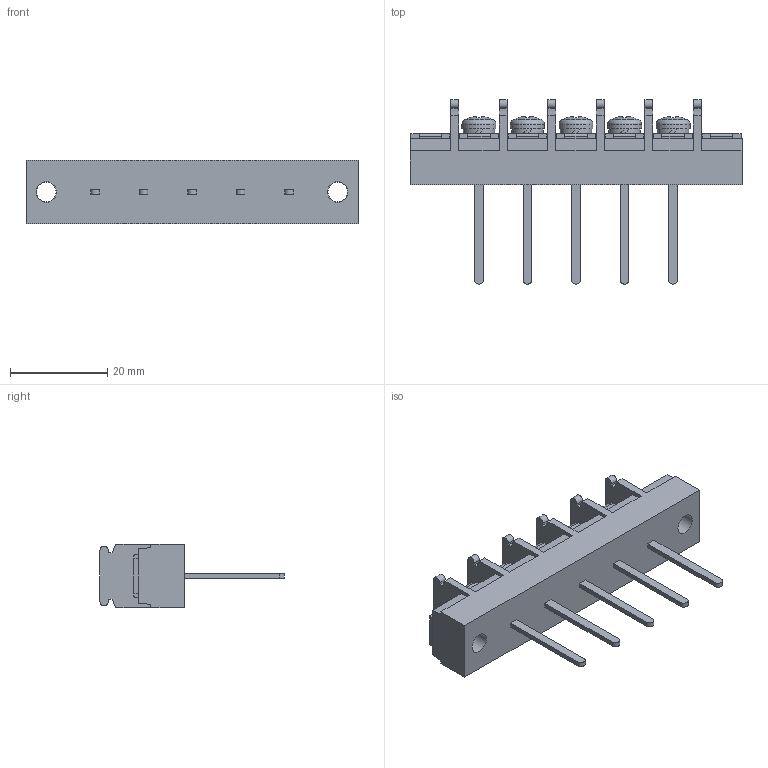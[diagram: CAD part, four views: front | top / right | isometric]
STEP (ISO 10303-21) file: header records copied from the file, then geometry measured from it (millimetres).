
FILE_DESCRIPTION(/* description */ ('Alibre Inc.'),/* implementation_level */ '2;1');
FILE_NAME(/* name */ 'export0',/* time_stamp */ '2015-10-17T19:31:31+09:00',/* author */ (''),/* organization */ (''),/* preprocessor_version */ 'ST-DEVELOPER v14',/* originating_system */ 'Alibre',/* authorisation */ '');
FILE_SCHEMA (('CONFIG_CONTROL_DESIGN'));
Length unit declared in the file: centimetre
Products named in the file (1): ID_1
Bounding box: 68.4 x 38 x 13 mm (x, y, z)
Volume: 10002.5 mm3; surface area: 6307.9 mm2
Topology: 1 solids, 17 shells, 755 faces, 2033 edges, 1351 vertices
Faces by surface type: plane 566, bspline 104, cylinder 50, cone 20, torus 10, sphere 5
Full cylindrical faces by diameter (mm): 4 x7, 4.2 x2, 6.5 x5, 7 x5
Entity records: 22878 total; most frequent: CARTESIAN_POINT 5173, ORIENTED_EDGE 3984, DIRECTION 2722, EDGE_CURVE 1992, VECTOR 1504, LINE 1504, VERTEX_POINT 1334, AXIS2_PLACEMENT_3D 887
